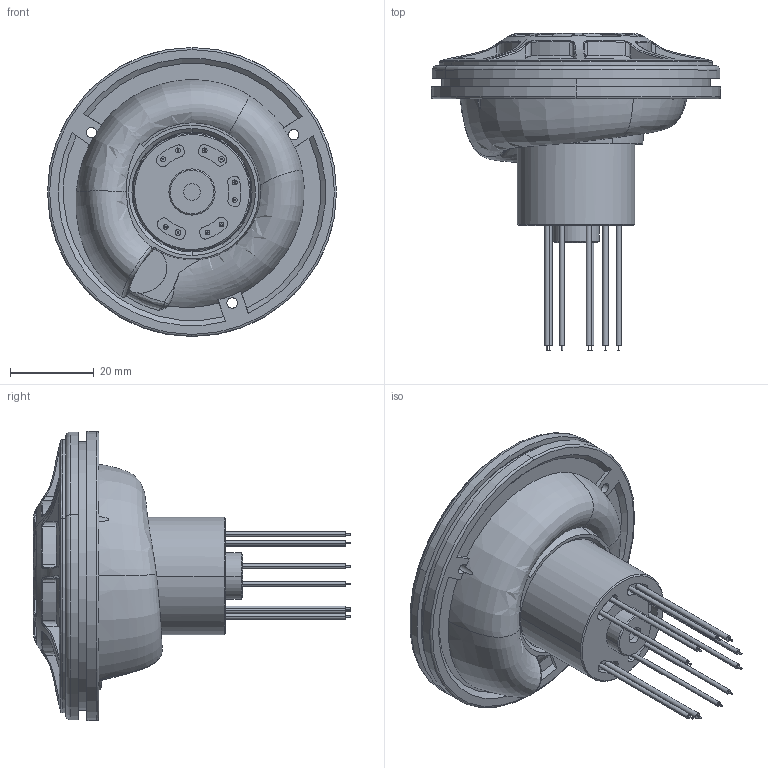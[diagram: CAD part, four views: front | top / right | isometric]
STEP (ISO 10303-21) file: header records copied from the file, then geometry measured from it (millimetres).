
FILE_DESCRIPTION((''),'2;1');
FILE_NAME('PRT0001','2026-07-22T16:13:31',('pc'),(''),'CREO PARAMETRIC BY PTC INC, 2018050','CREO PARAMETRIC BY PTC INC, 2018050','');
FILE_SCHEMA(('CONFIG_CONTROL_DESIGN','GEOMETRIC_VALIDATION_PROPERTIES_MIM'));
Length unit declared in the file: millimetre
Products named in the file (1): PRT0001
Bounding box: 68.84 x 75.53 x 68.84 mm (x, y, z)
Volume: 63649.8 mm3; surface area: 23425.6 mm2
Topology: 2 solids, 2 shells, 586 faces, 1451 edges, 917 vertices
Faces by surface type: bspline 170, cylinder 163, plane 126, cone 57, torus 55, revolution 10, sphere 3, extrusion 2
Entity records: 30503 total; most frequent: CARTESIAN_POINT 17136, ORIENTED_EDGE 2902, DIRECTION 2342, EDGE_CURVE 1451, AXIS2_PLACEMENT_3D 1020, VERTEX_POINT 917, EDGE_LOOP 640, CIRCLE 616
